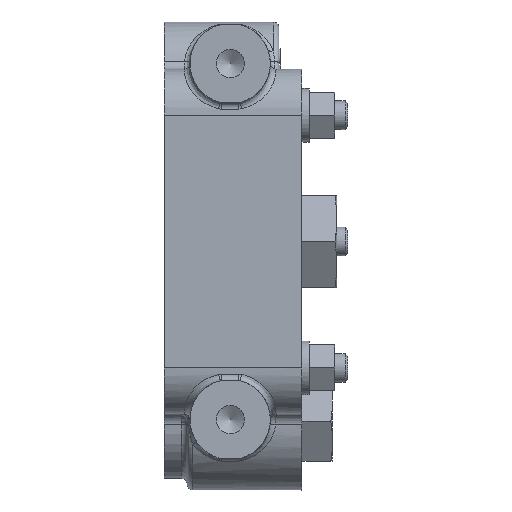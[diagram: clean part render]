
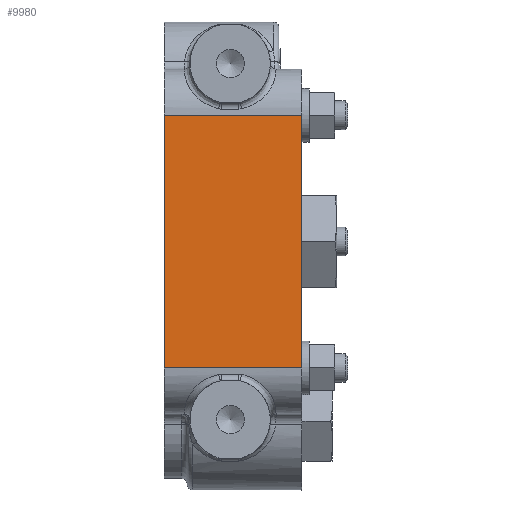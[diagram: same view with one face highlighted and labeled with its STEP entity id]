
A CAD part, front view. The second image highlights one B-rep face of the part: STEP entity #9980.
In plain terms, the highlighted planar face has unit normal (0, -1, 0).
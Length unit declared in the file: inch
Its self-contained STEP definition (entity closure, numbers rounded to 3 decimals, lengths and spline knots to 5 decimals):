
#1093=CARTESIAN_POINT('',(0.25,-2.312,1.375));
#1094=VERTEX_POINT('',#1093);
#1102=CARTESIAN_POINT('',(0.25,-2.312,-1.375));
#1103=VERTEX_POINT('',#1102);
#1104=CARTESIAN_POINT('',(0.25,-2.312,-1.375));
#1105=DIRECTION('',(0.0,0.0,1.0));
#1106=VECTOR('',#1105,2.75);
#1107=LINE('',#1104,#1106);
#1108=EDGE_CURVE('',#1103,#1094,#1107,.T.);
#9950=CARTESIAN_POINT('',(0.0,-2.312,-1.375));
#9951=DIRECTION('',(0.0,-1.0,0.0));
#9952=DIRECTION('',(0.0,0.0,-1.0));
#9953=AXIS2_PLACEMENT_3D('',#9950,#9951,#9952);
#9954=PLANE('',#9953);
#9955=CARTESIAN_POINT('',(-1.25,-2.312,-1.375));
#9956=VERTEX_POINT('',#9955);
#9957=CARTESIAN_POINT('',(-1.25,-2.312,-1.375));
#9958=DIRECTION('',(1.0,0.0,0.0));
#9959=VECTOR('',#9958,1.5);
#9960=LINE('',#9957,#9959);
#9961=EDGE_CURVE('',#9956,#1103,#9960,.T.);
#9962=ORIENTED_EDGE('',*,*,#9961,.T.);
#9963=ORIENTED_EDGE('',*,*,#1108,.T.);
#9964=CARTESIAN_POINT('',(-1.25,-2.312,1.375));
#9965=VERTEX_POINT('',#9964);
#9966=CARTESIAN_POINT('',(-1.25,-2.312,1.375));
#9967=DIRECTION('',(1.0,0.0,0.0));
#9968=VECTOR('',#9967,1.5);
#9969=LINE('',#9966,#9968);
#9970=EDGE_CURVE('',#9965,#1094,#9969,.T.);
#9971=ORIENTED_EDGE('',*,*,#9970,.F.);
#9972=CARTESIAN_POINT('',(-1.25,-2.312,1.375));
#9973=DIRECTION('',(0.0,0.0,-1.0));
#9974=VECTOR('',#9973,2.75);
#9975=LINE('',#9972,#9974);
#9976=EDGE_CURVE('',#9965,#9956,#9975,.T.);
#9977=ORIENTED_EDGE('',*,*,#9976,.T.);
#9978=EDGE_LOOP('',(#9962,#9963,#9971,#9977));
#9979=FACE_OUTER_BOUND('',#9978,.T.);
#9980=ADVANCED_FACE('',(#9979),#9954,.T.);
